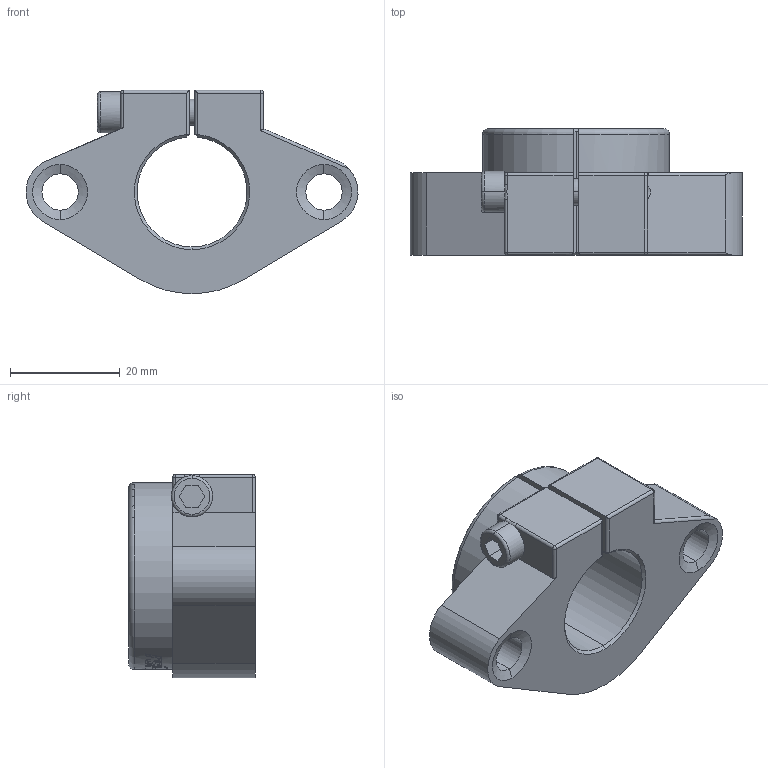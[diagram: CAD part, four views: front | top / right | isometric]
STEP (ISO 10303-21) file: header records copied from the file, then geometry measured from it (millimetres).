
FILE_DESCRIPTION (( 'STEP AP214' ), '1' );
FILE_NAME ('SHF20.STEP', '2020-11-02T10:48:22', ( '' ), ( '' ), 'SwSTEP 2.0', 'SolidWorks 2018', '' );
FILE_SCHEMA (( 'AUTOMOTIVE_DESIGN' ));
Length unit declared in the file: millimetre
Products named in the file (1): SHF20
Bounding box: 60.39 x 23 x 36.99 mm (x, y, z)
Volume: 20851.7 mm3; surface area: 8441.2 mm2
Topology: 1 solids, 1 shells, 189 faces, 487 edges, 306 vertices
Faces by surface type: bspline 65, plane 52, cylinder 48, cone 17, sphere 4, torus 3
Entity records: 13359 total; most frequent: CARTESIAN_POINT 8071, ORIENTED_EDGE 962, DIRECTION 626, EDGE_CURVE 481, VERTEX_POINT 306, AXIS2_PLACEMENT_3D 257, B_SPLINE_CURVE_WITH_KNOTS 229, EDGE_LOOP 207
